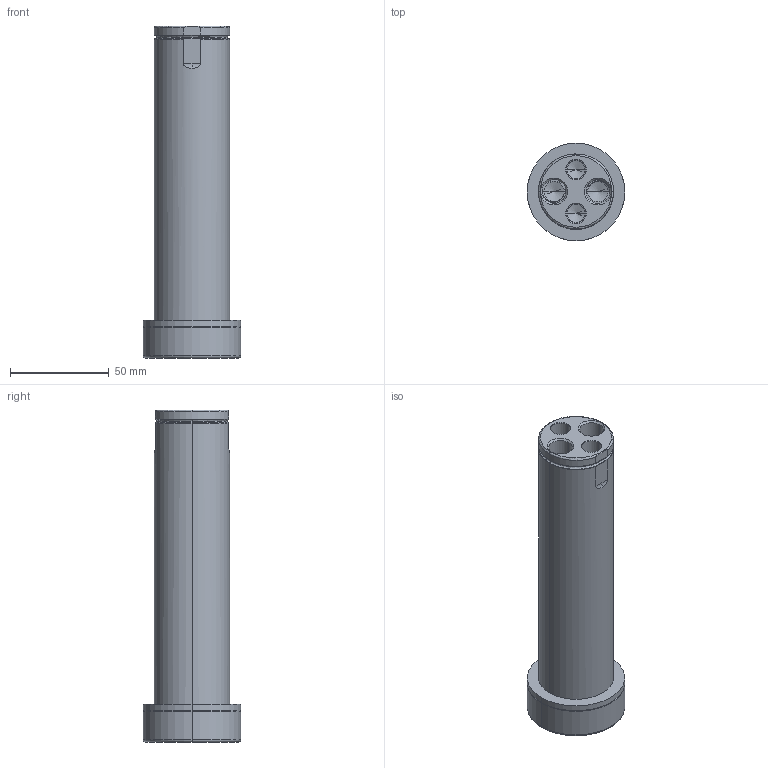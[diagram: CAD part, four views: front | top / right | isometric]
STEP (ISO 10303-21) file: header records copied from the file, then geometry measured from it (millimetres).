
FILE_DESCRIPTION (( 'STEP AP214' ), '1' );
FILE_NAME ('GK150-M-6-GuidePin.STEP', '2010-11-16T20:25:04', ( ' ' ), ( '' ), 'SwSTEP 2.0', 'SolidWorks 2010', '' );
FILE_SCHEMA (( 'AUTOMOTIVE_DESIGN' ));
Length unit declared in the file: inch
Products named in the file (1): GK150-M-6-GuidePin
Bounding box: 49.53 x 49.53 x 168.28 mm (x, y, z)
Volume: 194764.9 mm3; surface area: 30907.1 mm2
Topology: 2 solids, 2 shells, 86 faces, 198 edges, 115 vertices
Faces by surface type: cylinder 31, cone 20, torus 18, plane 13, bspline 4
Entity records: 6137 total; most frequent: CARTESIAN_POINT 3926, DIRECTION 429, ORIENTED_EDGE 380, EDGE_CURVE 190, AXIS2_PLACEMENT_3D 182, VERTEX_POINT 115, CIRCLE 99, EDGE_LOOP 95
